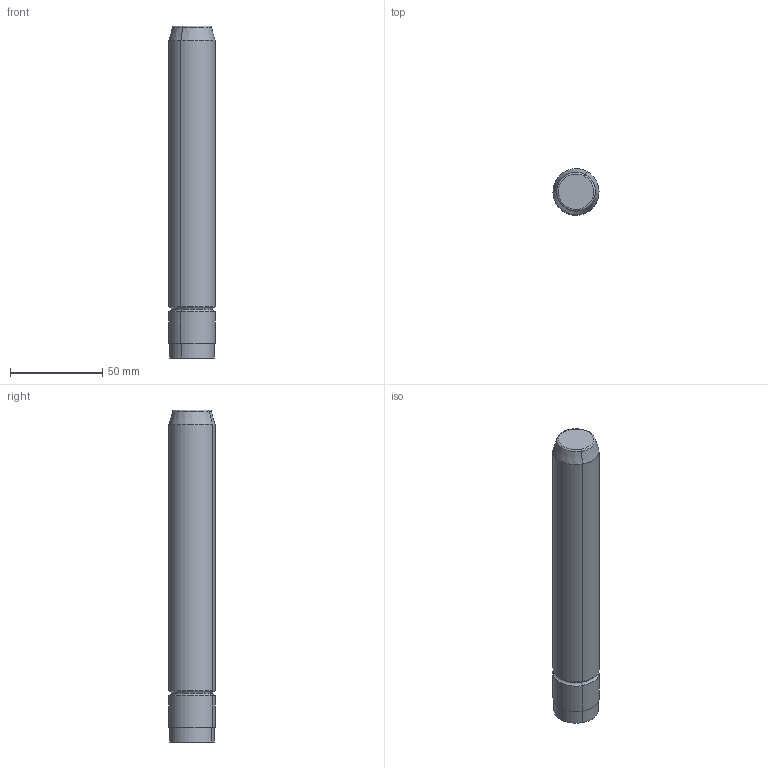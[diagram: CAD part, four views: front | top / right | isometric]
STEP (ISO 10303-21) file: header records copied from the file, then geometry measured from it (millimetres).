
FILE_DESCRIPTION(('CATIA V5 STEP Exchange'),'2;1');
FILE_NAME('C:\Users\Utente\Desktop\IO LAVORO\3D X SITO CF\X SITO\M104\M104-25x180.stp','2020-12-26T21:37:44+00:00',('none'),('none'),'CATIA Version 5 Release 20 GA (IN-10)','CATIA V5 STEP AP203','none');
FILE_SCHEMA(('CONFIG_CONTROL_DESIGN'));
Length unit declared in the file: millimetre
Products named in the file (1): M104-25x180
Bounding box: 24.99 x 24.99 x 180 mm (x, y, z)
Volume: 87192.7 mm3; surface area: 14989.4 mm2
Topology: 1 solids, 1 shells, 17 faces, 32 edges, 18 vertices
Faces by surface type: cylinder 6, torus 6, plane 3, cone 2
Entity records: 438 total; most frequent: CARTESIAN_POINT 66, ORIENTED_EDGE 64, DIRECTION 62, AXIS2_PLACEMENT_3D 40, EDGE_CURVE 32, CIRCLE 24, EDGE_LOOP 18, VERTEX_POINT 18
